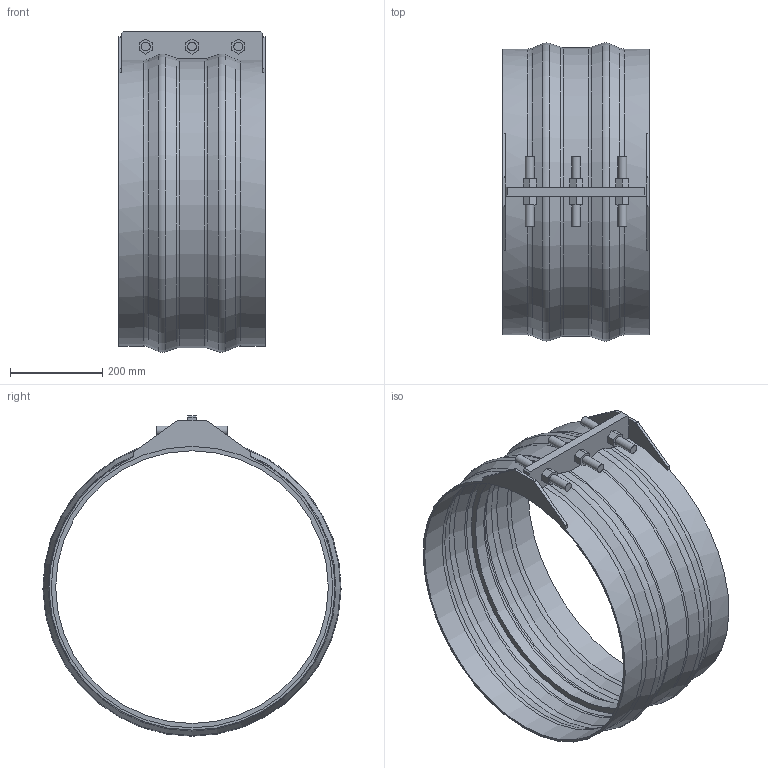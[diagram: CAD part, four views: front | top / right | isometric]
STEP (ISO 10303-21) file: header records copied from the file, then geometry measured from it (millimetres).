
FILE_DESCRIPTION(/* description */ ('VIC SS RESTRAINED COUPLING STYLE 233S (FLEX) (BRD)','CAx-IF Rec.Pracs.---Representation and Presentation of Product Manufacturing Information (PMI)---4.0---2014-10-13'),/* implementation_level */ '2;1');
FILE_NAME(/* name */ 'C:\Users\kkamble\AppData\Roaming\Autodesk\ApplicationPlugins\Back Up\Victaulic_VBSP_Coupling Flexible Restrained_Style 233S (BRD)\Victaulic_VBSP_Coupling Flexible Restrained_Style 233S (BRD)_100psi_24 (600).stp',/* time_stamp */ '2020-09-22T18:28:53+06:00',/* author */ ('Vjadhav'),/* organization */ ('Victaulic'),/* preprocessor_version */ 'ST-DEVELOPER v17.2',/* originating_system */ 'Autodesk Inventor 2019',/* authorisation */ '');
FILE_SCHEMA (('AP242_MANAGED_MODEL_BASED_3D_ENGINEERING_MIM_LF { 1 0 10303 442 1 1 4 }'));
Length unit declared in the file: inch
Products named in the file (1): Style_233S_Type_2_100psi-24.0
Bounding box: 317.5 x 645.74 x 694.06 mm (x, y, z)
Volume: 4247789.5 mm3; surface area: 1434363.2 mm2
Topology: 1 solids, 1 shells, 115 faces, 309 edges, 210 vertices
Faces by surface type: plane 73, cylinder 22, torus 12, cone 8
Full cylindrical faces by diameter (mm): 19.05 x6, 590.55 x1, 609.6 x2, 615.95 x2
Entity records: 3970 total; most frequent: CARTESIAN_POINT 764, DIRECTION 645, ORIENTED_EDGE 618, EDGE_CURVE 309, AXIS2_PLACEMENT_3D 227, VERTEX_POINT 210, LINE 191, VECTOR 191
